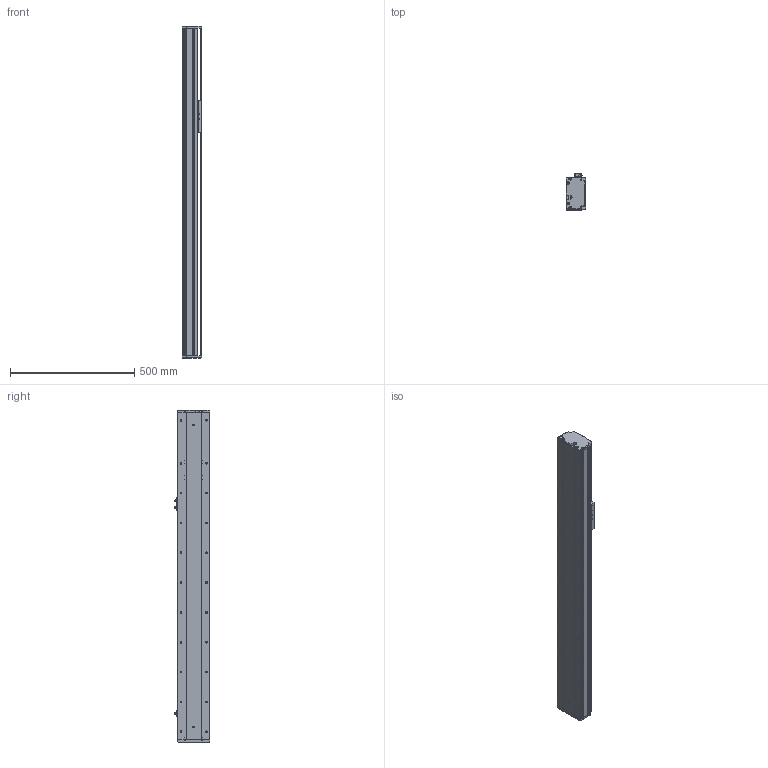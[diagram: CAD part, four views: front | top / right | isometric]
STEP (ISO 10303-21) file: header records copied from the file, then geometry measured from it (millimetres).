
FILE_DESCRIPTION (( 'STEP AP214' ), '1' );
FILE_NAME ('KSD130S-P2010-S850-M-CM.STEP', '2019-09-10T06:59:08', ( '微软用户' ), ( '微软中国' ), 'SwSTEP 2.0', 'SolidWorks 2014', '' );
FILE_SCHEMA (( 'AUTOMOTIVE_DESIGN' ));
Length unit declared in the file: millimetre
Products named in the file (8): 130宽马达安装板半封闭-内装; U倰嫖萇EEㄜSX672; 覜茼え100遵圉猾敕; 130宽盖板半封闭丝杠内装-850行程; 130宽滚珠丝杆安装板半封闭-内装-20丝杆; 130宽端盖半封闭-内装; 130宽底板半封闭丝杠内装-850行程; KSD130S-P2010-S850-M-CM
Assembly tree (9 placements, depth 2):
  KSD130S-P2010-S850-M-CM
    130宽底板半封闭丝杠内装-850行程
    130宽端盖半封闭-内装
    130宽滚珠丝杆安装板半封闭-内装-20丝杆
    130宽盖板半封闭丝杠内装-850行程
    覜茼え100遵圉猾敕
    U倰嫖萇EEㄜSX672  x3
    130宽马达安装板半封闭-内装
Bounding box: 80 x 143.7 x 1335 mm (x, y, z)
Volume: 3967681.4 mm3; surface area: 1216888.4 mm2
Topology: 9 solids, 9 shells, 1143 faces, 3344 edges, 2118 vertices
Faces by surface type: cylinder 522, plane 455, cone 166
Entity records: 37570 total; most frequent: CARTESIAN_POINT 7359, DIRECTION 5446, ORIENTED_EDGE 5352, EDGE_CURVE 2676, AXIS2_PLACEMENT_3D 1989, VERTEX_POINT 1742, LINE 1468, VECTOR 1468
